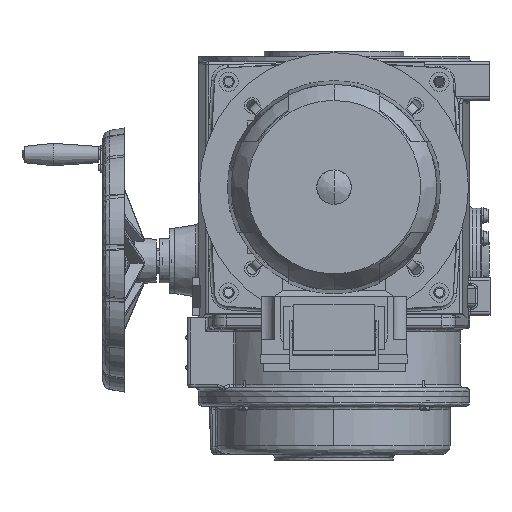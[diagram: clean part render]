
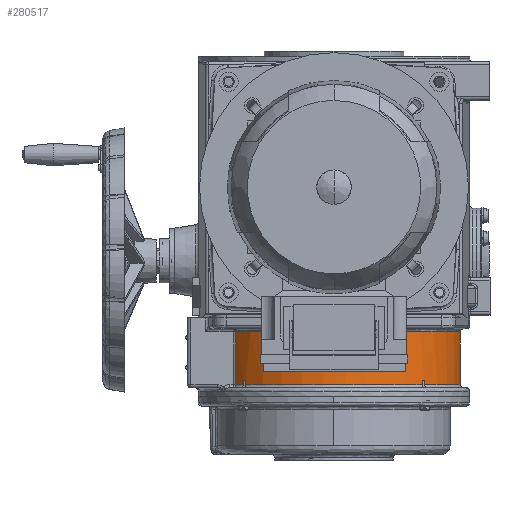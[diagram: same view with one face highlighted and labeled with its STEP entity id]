
A CAD part, front view. The second image highlights one B-rep face of the part: STEP entity #280517.
In plain terms, the highlighted cylindrical face has radius 117.5 mm (diameter 235 mm), a partial arc.
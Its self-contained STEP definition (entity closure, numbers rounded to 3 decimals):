
#3866 = ORIENTED_EDGE ( 'NONE', *, *, #333715, .T. ) ;
#5114 = VERTEX_POINT ( 'NONE', #213836 ) ;
#6155 = DIRECTION ( 'NONE',  ( 0., 0., 1. ) ) ;
#15180 = EDGE_CURVE ( 'NONE', #202285, #178436, #262413, .T. ) ;
#18883 = CARTESIAN_POINT ( 'NONE',  ( 65.693, -16.098, -186.5 ) ) ;
#21288 = VECTOR ( 'NONE', #220281, 1000. ) ;
#25232 = CARTESIAN_POINT ( 'NONE',  ( 65.693, -16.098, -183.5 ) ) ;
#28959 = CIRCLE ( 'NONE', #256098, 117.5 ) ;
#29750 = DIRECTION ( 'NONE',  ( 0., 0., 1. ) ) ;
#36668 = ORIENTED_EDGE ( 'NONE', *, *, #161316, .T. ) ;
#46105 = CARTESIAN_POINT ( 'NONE',  ( -109.596, -8.155, -186.5 ) ) ;
#57328 = ORIENTED_EDGE ( 'NONE', *, *, #82414, .T. ) ;
#57858 = EDGE_CURVE ( 'NONE', #306140, #237232, #228357, .T. ) ;
#60680 = DIRECTION ( 'NONE',  ( 0., 0., 1. ) ) ;
#65547 = AXIS2_PLACEMENT_3D ( 'NONE', #316648, #29750, #137669 ) ;
#77564 = AXIS2_PLACEMENT_3D ( 'NONE', #287421, #130195, #208316 ) ;
#82414 = EDGE_CURVE ( 'NONE', #323209, #202285, #143255, .T. ) ;
#83065 = DIRECTION ( 'NONE',  ( 1., 0., 0. ) ) ;
#90609 = CARTESIAN_POINT ( 'NONE',  ( -100.464, -18.154, -186.5 ) ) ;
#94116 = CARTESIAN_POINT ( 'NONE',  ( -100.464, -18.154, -179.5 ) ) ;
#100305 = CIRCLE ( 'NONE', #77564, 117.5 ) ;
#102347 = DIRECTION ( 'NONE',  ( 0., 0., -1. ) ) ;
#102769 = CARTESIAN_POINT ( 'NONE',  ( -102.521, -16.098, -179.5 ) ) ;
#103196 = CIRCLE ( 'NONE', #65547, 117.5 ) ;
#108333 = CARTESIAN_POINT ( 'NONE',  ( -109.596, -8.155, -183.5 ) ) ;
#109150 = DIRECTION ( 'NONE',  ( 0., 0., 1. ) ) ;
#117344 = DIRECTION ( 'NONE',  ( 0., 0., 1. ) ) ;
#124092 = CARTESIAN_POINT ( 'NONE',  ( -102.521, -16.098, -186.5 ) ) ;
#125204 = VECTOR ( 'NONE', #205023, 1000. ) ;
#130195 = DIRECTION ( 'NONE',  ( 0., 0., 1. ) ) ;
#130592 = VERTEX_POINT ( 'NONE', #151421 ) ;
#133689 = LINE ( 'NONE', #124092, #244689 ) ;
#137669 = DIRECTION ( 'NONE',  ( 1., 0., 0. ) ) ;
#138139 = CARTESIAN_POINT ( 'NONE',  ( -18.414, 65.953, -183.5 ) ) ;
#141829 = ORIENTED_EDGE ( 'NONE', *, *, #244615, .T. ) ;
#142222 = CARTESIAN_POINT ( 'NONE',  ( -18.414, 65.953, -179.5 ) ) ;
#143255 = CIRCLE ( 'NONE', #312361, 117.5 ) ;
#146411 = VECTOR ( 'NONE', #314168, 1000. ) ;
#147611 = VECTOR ( 'NONE', #200278, 1000. ) ;
#151421 = CARTESIAN_POINT ( 'NONE',  ( 99.086, 65.953, -134.5 ) ) ;
#158222 = LINE ( 'NONE', #46105, #170489 ) ;
#160456 = CARTESIAN_POINT ( 'NONE',  ( 99.086, 65.953, -186.5 ) ) ;
#160828 = ORIENTED_EDGE ( 'NONE', *, *, #57858, .T. ) ;
#161316 = EDGE_CURVE ( 'NONE', #339839, #331783, #103196, .T. ) ;
#164520 = CARTESIAN_POINT ( 'NONE',  ( -18.414, 65.953, -179.5 ) ) ;
#170489 = VECTOR ( 'NONE', #102347, 1000. ) ;
#178436 = VERTEX_POINT ( 'NONE', #25232 ) ;
#185667 = EDGE_CURVE ( 'NONE', #226858, #339839, #251243, .T. ) ;
#191647 = DIRECTION ( 'NONE',  ( 1., 0., 0. ) ) ;
#197243 = VERTEX_POINT ( 'NONE', #254093 ) ;
#200278 = DIRECTION ( 'NONE',  ( 0., 0., -1. ) ) ;
#202285 = VERTEX_POINT ( 'NONE', #262263 ) ;
#205023 = DIRECTION ( 'NONE',  ( 0., 0., 1. ) ) ;
#208316 = DIRECTION ( 'NONE',  ( 1., 0., 0. ) ) ;
#213836 = CARTESIAN_POINT ( 'NONE',  ( 99.086, 65.953, -183.5 ) ) ;
#214551 = AXIS2_PLACEMENT_3D ( 'NONE', #138139, #117344, #219607 ) ;
#215892 = CARTESIAN_POINT ( 'NONE',  ( -18.414, 65.953, -186.5 ) ) ;
#218571 = FACE_OUTER_BOUND ( 'NONE', #305325, .T. ) ;
#219607 = DIRECTION ( 'NONE',  ( 1., 0., 0. ) ) ;
#219833 = LINE ( 'NONE', #230180, #125204 ) ;
#220281 = DIRECTION ( 'NONE',  ( 0., 0., -1. ) ) ;
#225098 = ORIENTED_EDGE ( 'NONE', *, *, #227717, .T. ) ;
#226858 = VERTEX_POINT ( 'NONE', #94116 ) ;
#227717 = EDGE_CURVE ( 'NONE', #331783, #323209, #219833, .T. ) ;
#228357 = CIRCLE ( 'NONE', #214551, 117.5 ) ;
#229432 = ORIENTED_EDGE ( 'NONE', *, *, #334801, .T. ) ;
#229997 = ORIENTED_EDGE ( 'NONE', *, *, #185667, .T. ) ;
#230180 = CARTESIAN_POINT ( 'NONE',  ( 63.637, -18.154, -186.5 ) ) ;
#237232 = VERTEX_POINT ( 'NONE', #281517 ) ;
#242638 = EDGE_CURVE ( 'NONE', #178436, #5114, #100305, .T. ) ;
#244615 = EDGE_CURVE ( 'NONE', #273117, #226858, #28959, .T. ) ;
#244689 = VECTOR ( 'NONE', #259399, 1000. ) ;
#251161 = ORIENTED_EDGE ( 'NONE', *, *, #15180, .T. ) ;
#251243 = LINE ( 'NONE', #90609, #21288 ) ;
#253265 = ORIENTED_EDGE ( 'NONE', *, *, #282761, .T. ) ;
#254093 = CARTESIAN_POINT ( 'NONE',  ( -109.596, -8.155, -134.5 ) ) ;
#256098 = AXIS2_PLACEMENT_3D ( 'NONE', #142222, #60680, #191647 ) ;
#257846 = CIRCLE ( 'NONE', #273772, 117.5 ) ;
#259399 = DIRECTION ( 'NONE',  ( 0., 0., 1. ) ) ;
#262263 = CARTESIAN_POINT ( 'NONE',  ( 65.693, -16.098, -179.5 ) ) ;
#262413 = LINE ( 'NONE', #18883, #147611 ) ;
#264846 = DIRECTION ( 'NONE',  ( 0., 0., -1. ) ) ;
#266319 = DIRECTION ( 'NONE',  ( 1., 0., 0. ) ) ;
#273117 = VERTEX_POINT ( 'NONE', #102769 ) ;
#273772 = AXIS2_PLACEMENT_3D ( 'NONE', #292437, #264846, #317652 ) ;
#280517 = ADVANCED_FACE ( 'NONE', ( #218571 ), #320880, .T. ) ;
#281517 = CARTESIAN_POINT ( 'NONE',  ( -102.521, -16.098, -183.5 ) ) ;
#282761 = EDGE_CURVE ( 'NONE', #5114, #130592, #322901, .T. ) ;
#287421 = CARTESIAN_POINT ( 'NONE',  ( -18.414, 65.953, -183.5 ) ) ;
#290507 = ORIENTED_EDGE ( 'NONE', *, *, #242638, .T. ) ;
#292437 = CARTESIAN_POINT ( 'NONE',  ( -18.414, 65.953, -134.5 ) ) ;
#302978 = EDGE_CURVE ( 'NONE', #237232, #273117, #133689, .T. ) ;
#305325 = EDGE_LOOP ( 'NONE', ( #290507, #253265, #3866, #229432, #160828, #305783, #141829, #229997, #36668, #225098, #57328, #251161 ) ) ;
#305783 = ORIENTED_EDGE ( 'NONE', *, *, #302978, .T. ) ;
#306140 = VERTEX_POINT ( 'NONE', #108333 ) ;
#312361 = AXIS2_PLACEMENT_3D ( 'NONE', #164520, #6155, #83065 ) ;
#314168 = DIRECTION ( 'NONE',  ( 0., 0., 1. ) ) ;
#315631 = CARTESIAN_POINT ( 'NONE',  ( -100.464, -18.154, -183.5 ) ) ;
#316648 = CARTESIAN_POINT ( 'NONE',  ( -18.414, 65.953, -183.5 ) ) ;
#317493 = AXIS2_PLACEMENT_3D ( 'NONE', #215892, #109150, #266319 ) ;
#317652 = DIRECTION ( 'NONE',  ( 1., 0., 0. ) ) ;
#320880 = CYLINDRICAL_SURFACE ( 'NONE', #317493, 117.5 ) ;
#322901 = LINE ( 'NONE', #160456, #146411 ) ;
#323209 = VERTEX_POINT ( 'NONE', #327229 ) ;
#327229 = CARTESIAN_POINT ( 'NONE',  ( 63.637, -18.154, -179.5 ) ) ;
#331783 = VERTEX_POINT ( 'NONE', #338732 ) ;
#333715 = EDGE_CURVE ( 'NONE', #130592, #197243, #257846, .T. ) ;
#334801 = EDGE_CURVE ( 'NONE', #197243, #306140, #158222, .T. ) ;
#338732 = CARTESIAN_POINT ( 'NONE',  ( 63.637, -18.154, -183.5 ) ) ;
#339839 = VERTEX_POINT ( 'NONE', #315631 ) ;
